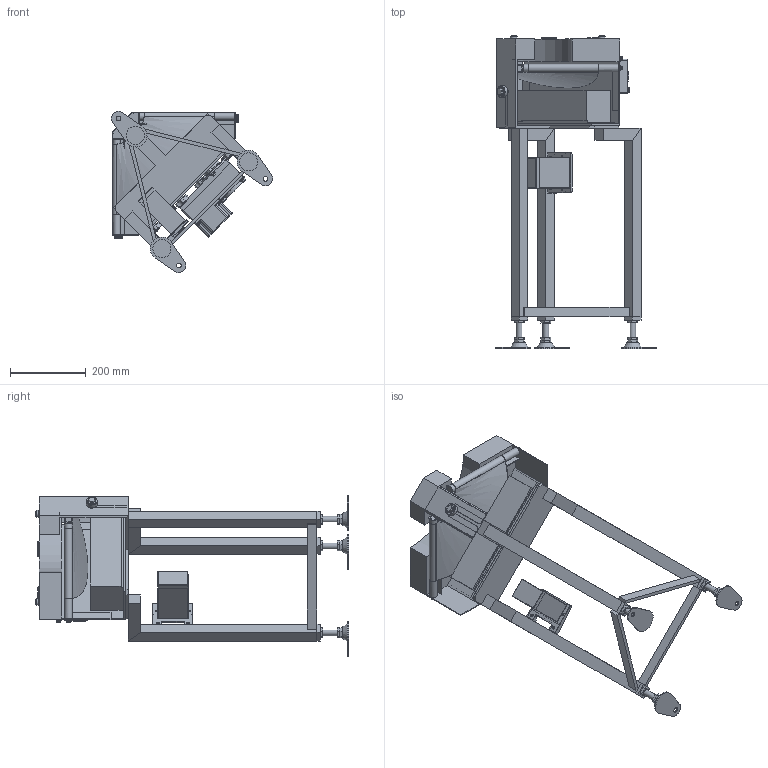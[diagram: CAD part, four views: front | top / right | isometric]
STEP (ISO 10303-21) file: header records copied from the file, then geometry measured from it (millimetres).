
FILE_DESCRIPTION (( 'STEP AP214' ), '1' );
FILE_NAME ('GBC90-HS100-DC-R.STEP', '2023-04-20T01:37:04', ( '' ), ( '' ), 'SwSTEP 2.0', 'SolidWorks 2017', '' );
FILE_SCHEMA (( 'AUTOMOTIVE_DESIGN' ));
Length unit declared in the file: millimetre
Products named in the file (1): GBC90-HS100-DC-R
Bounding box: 426.08 x 827.92 x 426.08 mm (x, y, z)
Volume: 10836115.6 mm3; surface area: 1643735.7 mm2
Topology: 67 solids, 67 shells, 1170 faces, 2678 edges, 1712 vertices
Faces by surface type: plane 741, cylinder 250, cone 91, bspline 63, torus 18, sphere 7
Full cylindrical faces by diameter (mm): 4.2 x4, 4.5 x2, 5 x4, 6 x17, 6.4 x4, 7 x3, 8 x9, 8.4 x2, 9 x8, 9.2 x1, 10 x11, 12 x2, 12.2 x2, 12.5 x7, 13 x9, 15 x4, 15.4 x1, 16 x10, 17 x2, 18 x2, 18.4 x1, 20 x6, 21 x1, 22.2 x1, 24 x1, 25 x1, 30 x1, 51 x1
Entity records: 53280 total; most frequent: CARTESIAN_POINT 14547, DIRECTION 5022, ORIENTED_EDGE 4880, EDGE_CURVE 2440, AXIS2_PLACEMENT_3D 1760, VERTEX_POINT 1658, LINE 1502, VECTOR 1502
